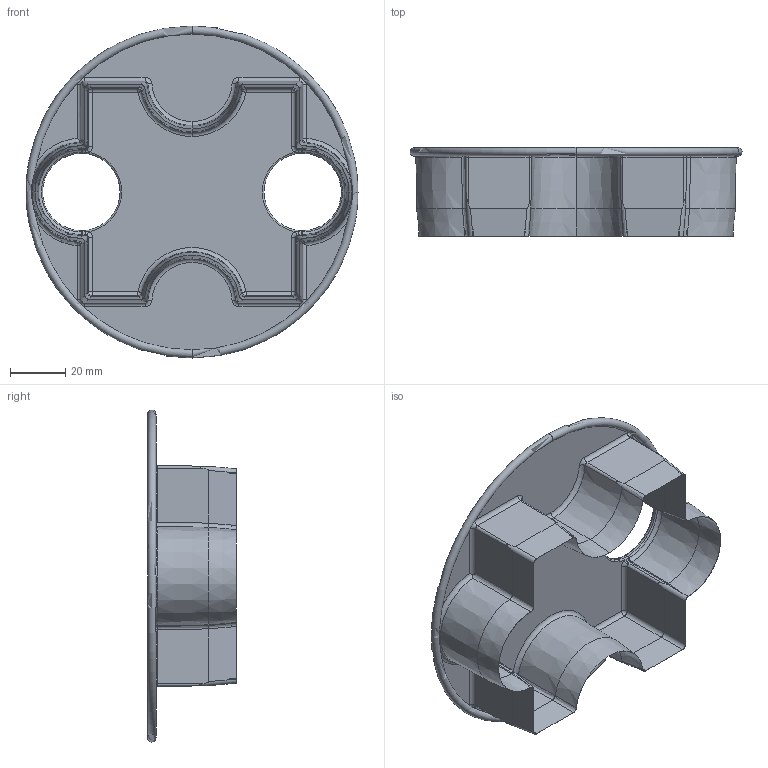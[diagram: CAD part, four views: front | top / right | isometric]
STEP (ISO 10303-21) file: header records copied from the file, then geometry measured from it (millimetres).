
FILE_DESCRIPTION (( 'STEP AP203' ), '1' );
FILE_NAME ('Puzzle Cutter.STEP', '2024-09-13T19:07:46', ( '' ), ( '' ), 'SwSTEP 2.0', 'SolidWorks 2016', '' );
FILE_SCHEMA (( 'CONFIG_CONTROL_DESIGN' ));
Length unit declared in the file: millimetre
Products named in the file (1): Puzzle Cutter
Bounding box: 120 x 32 x 120 mm (x, y, z)
Volume: 41292.7 mm3; surface area: 42708.7 mm2
Topology: 1 solids, 1 shells, 200 faces, 521 edges, 312 vertices
Faces by surface type: plane 49, cone 41, torus 36, cylinder 36, bspline 28, sphere 10
Entity records: 7132 total; most frequent: CARTESIAN_POINT 2610, ORIENTED_EDGE 1022, DIRECTION 851, EDGE_CURVE 511, AXIS2_PLACEMENT_3D 355, VERTEX_POINT 312, EDGE_LOOP 203, ADVANCED_FACE 200
